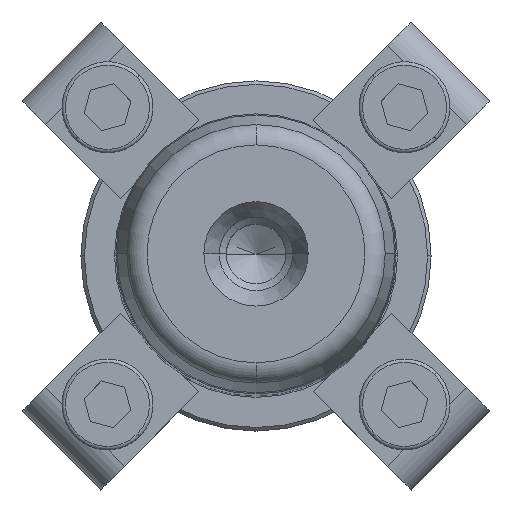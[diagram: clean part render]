
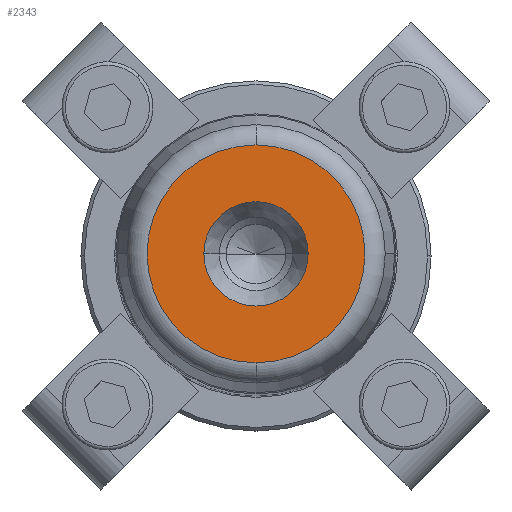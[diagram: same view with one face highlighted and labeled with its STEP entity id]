
A CAD part, top view. The second image highlights one B-rep face of the part: STEP entity #2343.
In plain terms, the highlighted planar face has unit normal (0, 0, 1).
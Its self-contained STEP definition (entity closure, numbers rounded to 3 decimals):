
#431=CARTESIAN_POINT('',(7.45,0.,180.0));
#432=VERTEX_POINT('',#431);
#439=CARTESIAN_POINT('',(-7.45,0.,180.0));
#440=VERTEX_POINT('',#439);
#441=CARTESIAN_POINT('',(0.0,0.,180.0));
#442=DIRECTION('',(0.0,0.0,1.0));
#443=DIRECTION('',(1.0,0.0,0.0));
#444=AXIS2_PLACEMENT_3D('',#441,#442,#443);
#445=CIRCLE('',#444,7.45);
#446=EDGE_CURVE('',#432,#440,#445,.T.);
#463=CARTESIAN_POINT('',(0.0,-15.554,180.0));
#464=VERTEX_POINT('',#463);
#474=CARTESIAN_POINT('',(0.,15.554,180.0));
#475=VERTEX_POINT('',#474);
#476=CARTESIAN_POINT('',(0.0,0.,180.0));
#477=DIRECTION('',(0.0,0.0,1.0));
#478=DIRECTION('',(1.0,0.0,0.0));
#479=AXIS2_PLACEMENT_3D('',#476,#477,#478);
#480=CIRCLE('',#479,15.554);
#481=EDGE_CURVE('',#475,#464,#480,.T.);
#2304=CARTESIAN_POINT('',(15.554,0.,180.0));
#2305=VERTEX_POINT('',#2304);
#2306=CARTESIAN_POINT('',(0.0,0.,180.0));
#2307=DIRECTION('',(0.0,0.0,1.0));
#2308=DIRECTION('',(1.0,0.0,0.0));
#2309=AXIS2_PLACEMENT_3D('',#2306,#2307,#2308);
#2310=CIRCLE('',#2309,15.554);
#2311=EDGE_CURVE('',#2305,#475,#2310,.T.);
#2313=CARTESIAN_POINT('',(0.0,0.,180.0));
#2314=DIRECTION('',(0.0,0.0,1.0));
#2315=DIRECTION('',(1.0,0.0,0.0));
#2316=AXIS2_PLACEMENT_3D('',#2313,#2314,#2315);
#2317=CIRCLE('',#2316,15.554);
#2318=EDGE_CURVE('',#464,#2305,#2317,.T.);
#2323=CARTESIAN_POINT('',(11.502,0.,180.0));
#2324=DIRECTION('',(0.0,0.0,1.0));
#2325=DIRECTION('',(0.0,-1.0,0.0));
#2326=AXIS2_PLACEMENT_3D('',#2323,#2324,#2325);
#2327=PLANE('',#2326);
#2328=ORIENTED_EDGE('',*,*,#2311,.T.);
#2329=ORIENTED_EDGE('',*,*,#481,.T.);
#2330=ORIENTED_EDGE('',*,*,#2318,.T.);
#2331=EDGE_LOOP('',(#2328,#2329,#2330));
#2332=FACE_OUTER_BOUND('',#2331,.T.);
#2333=ORIENTED_EDGE('',*,*,#446,.F.);
#2334=CARTESIAN_POINT('',(0.0,0.,180.0));
#2335=DIRECTION('',(0.0,0.0,1.0));
#2336=DIRECTION('',(1.0,0.0,0.0));
#2337=AXIS2_PLACEMENT_3D('',#2334,#2335,#2336);
#2338=CIRCLE('',#2337,7.45);
#2339=EDGE_CURVE('',#440,#432,#2338,.T.);
#2340=ORIENTED_EDGE('',*,*,#2339,.F.);
#2341=EDGE_LOOP('',(#2333,#2340));
#2342=FACE_BOUND('',#2341,.T.);
#2343=ADVANCED_FACE('',(#2332,#2342),#2327,.T.);
